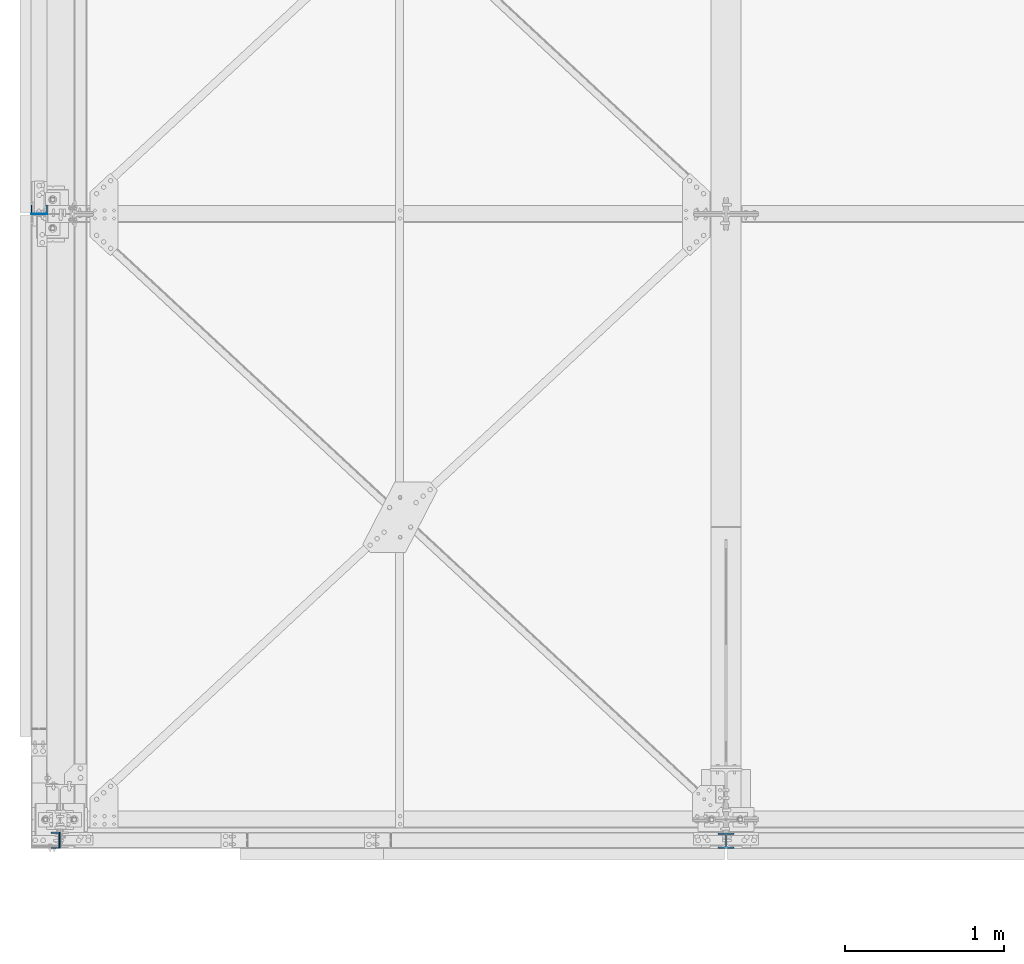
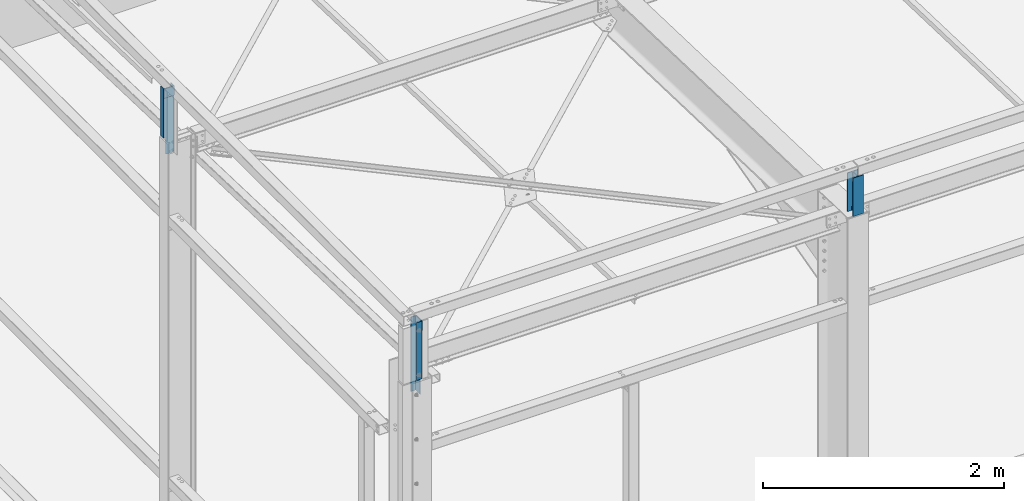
# One storey, part 20 of 362: 5 columns, 5 elements without a shape of their own.
"""IFC2X3 building model written with IfcOpenShell, lengths in millimetres."""

from ifc_helpers import new_model, si_unit, frame, origin_with_axes, origin_2d_with_axis, place, context, subcontext, project, spatial, polyline, rectangle, i_section, u_section, outline, extrude, boolean, clip, halfspace, material, type_object, element, aggregate, save


model = new_model("IFC2X3")

# Units and contexts
model_context = context("Model", 3, precision=1e-05, world=origin_with_axes())
body_context = subcontext(model_context, "Body", "Model", "MODEL_VIEW")
ifc_project = project(units=[si_unit("LENGTHUNIT", "METRE", prefix="MILLI"), si_unit("AREAUNIT", "SQUARE_METRE"), si_unit("VOLUMEUNIT", "CUBIC_METRE"), si_unit("MASSUNIT", "GRAM", prefix="KILO"), si_unit("TIMEUNIT", "SECOND"), si_unit("PLANEANGLEUNIT", "RADIAN"), si_unit("SOLIDANGLEUNIT", "STERADIAN"), si_unit("THERMODYNAMICTEMPERATUREUNIT", "DEGREE_CELSIUS"), si_unit("LUMINOUSINTENSITYUNIT", "LUMEN")], contexts=[model_context])

# Site, building, storey
site_placement = place(None, origin_with_axes())
site = spatial("IfcSite", under=ifc_project, at=site_placement, Name="Undefined", CompositionType="ELEMENT")
building_placement = place(site_placement, origin_with_axes())
building = spatial("IfcBuilding", under=site, at=building_placement, Name="Undefined", CompositionType="ELEMENT")
storey_placement = place(building_placement, origin_with_axes())
storey = spatial("IfcBuildingStorey", under=building, at=storey_placement, Name="Undefined", CompositionType="ELEMENT", Elevation=0.0)

# Assembly, column
assembly_1_placement = place(storey_placement, origin_with_axes())
assembly_1 = element("IfcElementAssembly", 1, at=assembly_1_placement, inside=storey, AssemblyPlace="NOTDEFINED", PredefinedType="NOTDEFINED")
ifc_material_1 = material(Name="Undefined/S235-E24")
column_type_1 = type_object("IfcColumnType", Name="PL6*100", PredefinedType="NOTDEFINED")
column_1_placement = place(assembly_1_placement, frame((-129.999997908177, 3800.0, 8350.0), z_axis=(0.0, 0.0, 1.0), x_axis=(-1.0, 0.0, 0.0)))
column_1 = element("IfcColumn", 2, at=column_1_placement, type_object=column_type_1, material=ifc_material_1, Name="CALE", ObjectType="PL6*100", context=body_context, shape_type="SweptSolid", body=[
    extrude(rectangle(XDim=6.0, YDim=100.0, at=origin_2d_with_axis()), frame((0.0, 0.0, 95.0), z_axis=(0.0, 0.0, -1.0), x_axis=(0.0, 1.0, 0.0)), (0.0, 0.0, 1.0), 95.0),
])
aggregate(assembly_1, [column_1])

assembly_2_placement = place(storey_placement, origin_with_axes())
assembly_2 = element("IfcElementAssembly", 3, at=assembly_2_placement, inside=storey, AssemblyPlace="NOTDEFINED", PredefinedType="NOTDEFINED")
column_type_2 = type_object("IfcColumnType", Name="PL8*100", PredefinedType="NOTDEFINED")
column_2_placement = place(assembly_2_placement, frame((1.44900650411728e-06, -130.0, 8350.0), z_axis=(0.0, 0.0, 1.0), x_axis=(0.0, -1.0, 0.0)))
column_2 = element("IfcColumn", 4, at=column_2_placement, type_object=column_type_2, material=ifc_material_1, Name="CALE", ObjectType="PL8*100", context=body_context, shape_type="SweptSolid", body=[
    extrude(rectangle(XDim=8.0, YDim=100.0, at=origin_2d_with_axis()), frame((0.0, 0.0, 95.0), z_axis=(0.0, 0.0, -1.0), x_axis=(0.0, 1.0, 0.0)), (0.0, 0.0, 1.0), 95.0),
])
aggregate(assembly_2, [column_2])

assembly_3_placement = place(storey_placement, origin_with_axes())
assembly_3 = element("IfcElementAssembly", 5, at=assembly_3_placement, inside=storey, AssemblyPlace="NOTDEFINED", PredefinedType="NOTDEFINED")
column_type_3 = type_object("IfcColumnType", Name="UPF-100*50*4", PredefinedType="NOTDEFINED")
column_3_placement = place(assembly_3_placement, frame((-29.3000001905, -130.000001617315, 7690.00293066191), z_axis=(0.0, 0.0, 1.0), x_axis=(0.0, 1.0, 0.0)))
column_3 = element("IfcColumn", 6, at=column_3_placement, type_object=column_type_3, material=ifc_material_1, Name="BAIONNETTE", ObjectType="UPF-100*50*4", context=body_context, shape_type="CSG", body=[
    boolean("DIFFERENCE", extrude(u_section(Depth=100.0, FlangeWidth=50.0, WebThickness=4.0, FlangeThickness=4.0, at=origin_2d_with_axis()), frame((0.0, 0.0, 754.998684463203), z_axis=(0.0, 0.0, -1.0), x_axis=(0.0, 1.0, 0.0)), (0.0, 0.0, 1.0), 755.0), extrude(outline(polyline([(0.0, 0.0), (19.9999999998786, -3.63797880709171e-12), (19.9999939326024, 170.0), (-6.06739681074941e-06, 170.0), (0.0, 0.0)])), frame((-50.0000000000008, -27.5000000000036, 170.000083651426), z_axis=(0.0, 1.0, 0.0), x_axis=(1.0, 0.0, 0.0)), (0.0, 0.0, 1.0), 55.0)),
])
aggregate(assembly_3, [column_3])

assembly_4_placement = place(storey_placement, origin_with_axes())
assembly_4 = element("IfcElementAssembly", 7, at=assembly_4_placement, inside=storey, AssemblyPlace="NOTDEFINED", PredefinedType="NOTDEFINED")
column_4_placement = place(assembly_4_placement, frame((-130.000001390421, 3828.2999999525, 7774.99908228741), z_axis=(0.0, 0.0, 1.0), x_axis=(1.0, 0.0, 0.0)))
column_4 = element("IfcColumn", 8, at=column_4_placement, type_object=column_type_3, material=ifc_material_1, Name="BAIONNETTE", ObjectType="UPF-100*50*4", context=body_context, shape_type="CSG", body=[
    boolean("DIFFERENCE", extrude(u_section(Depth=100.0, FlangeWidth=50.0, WebThickness=4.0, FlangeThickness=4.0, at=origin_2d_with_axis()), frame((0.0, 0.0, 669.998684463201), z_axis=(0.0, 0.0, -1.0), x_axis=(0.0, 1.0, 0.0)), (0.0, 0.0, 1.0), 670.0), extrude(outline(polyline([(0.0, 0.0), (19.9999999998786, -3.63797880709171e-12), (19.9999939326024, 170.0), (-6.06739681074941e-06, 170.0), (0.0, 0.0)])), frame((-50.0000000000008, -27.5000000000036, 170.000083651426), z_axis=(0.0, 1.0, 0.0), x_axis=(1.0, 0.0, 0.0)), (0.0, 0.0, 1.0), 55.0)),
])
aggregate(assembly_4, [column_4])

assembly_5_placement = place(storey_placement, origin_with_axes())
assembly_5 = element("IfcElementAssembly", 9, at=assembly_5_placement, inside=storey, Name="POTEAU", AssemblyPlace="NOTDEFINED", PredefinedType="NOTDEFINED")
ifc_material_2 = material(Name="Undefined/S275-E28")
column_type_4 = type_object("IfcColumnType", Name="HEA100", PredefinedType="NOTDEFINED")
column_5_placement = place(assembly_5_placement, frame((4180.0, -132.0, 8049.99544952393), z_axis=(0.0, 0.0, 1.0), x_axis=(0.0, 1.0, 0.0)))
column_5 = element("IfcColumn", 10, at=column_5_placement, type_object=column_type_4, material=ifc_material_2, Name="BAIONNETTE", ObjectType="HEA100", context=body_context, shape_type="Clipping", body=[
    clip(extrude(i_section(OverallWidth=100.0, OverallDepth=96.0, WebThickness=5.0, FlangeThickness=8.0, FilletRadius=12.0, at=origin_2d_with_axis()), frame((0.0, 0.0, 395.004550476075), z_axis=(0.0, 0.0, -1.0), x_axis=(0.0, 1.0, 0.0)), (0.0, 0.0, 1.0), 392.38), halfspace(frame((55.2953255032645, 0.0, 2.41509197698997), z_axis=(-0.0314107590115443, 0.0, -0.999506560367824), x_axis=(0.0, 1.0, 0.0)), False)),
])
aggregate(assembly_5, [column_5])

save(model, "model.ifc")
